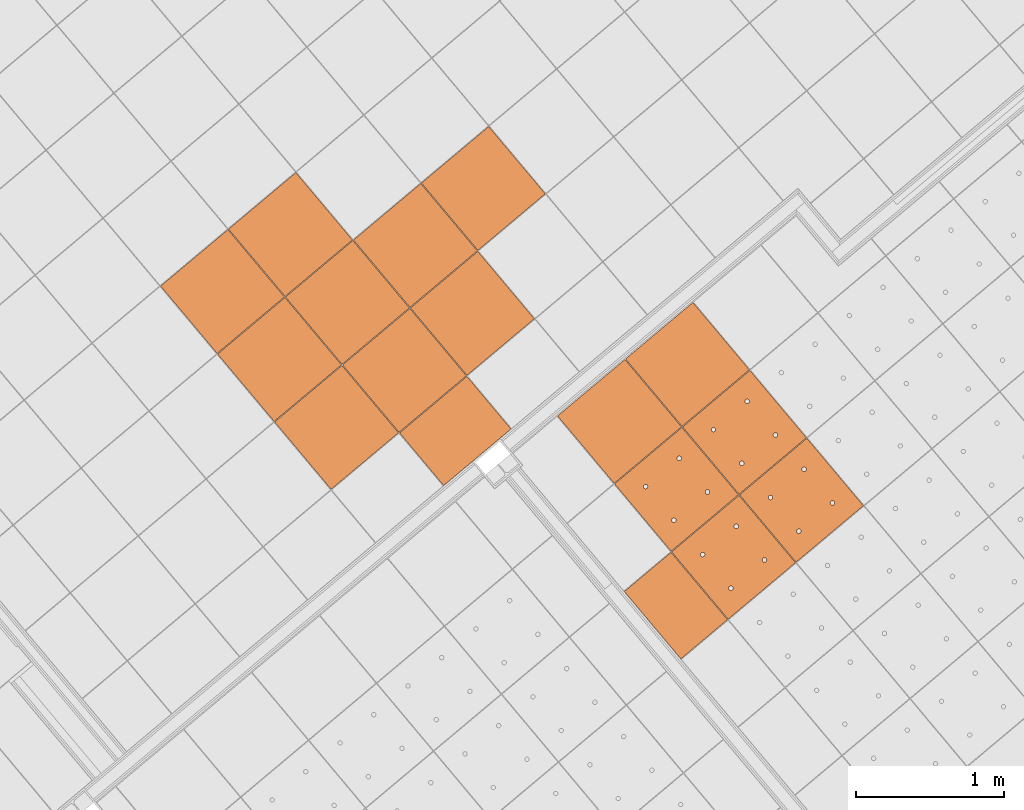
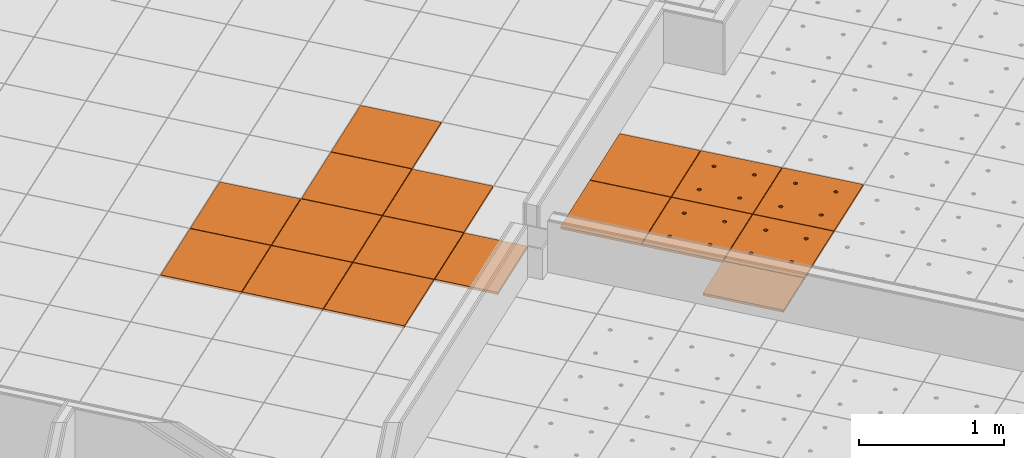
# One storey, part 148 of 338: 17 proxies, 2 elements without a shape of their own.
"""IFC2X3 building model written with IfcOpenShell, lengths in millimetres."""

from ifc_helpers import new_model, entity, si_unit, converted_unit, derived_unit, money_unit, direction, frame, origin_with_axes, place, context, subcontext, project, spatial, faceted_brep, source, transform, mapped, material, type_object, type_shapes, element, aggregate, save


model = new_model("IFC2X3")

# Units and contexts
model_context = context("Model", 3, precision=0.01, world=origin_with_axes(), true_north=direction((0.0, 1.0)))
plan_context = context("Plan", 3, precision=0.01, world=origin_with_axes(), true_north=direction((0.0, 1.0)))
body_context = subcontext(model_context, "Body", "Model", "MODEL_VIEW")
ifc_project = project(units=[si_unit("LENGTHUNIT", "METRE", prefix="MILLI"), si_unit("AREAUNIT", "SQUARE_METRE"), si_unit("VOLUMEUNIT", "CUBIC_METRE"), converted_unit("PLANEANGLEUNIT", "DEGREE", entity("IfcPlaneAngleMeasure", 0.0174532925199), si_unit("PLANEANGLEUNIT", "RADIAN"), dimensions=[0, 0, 0, 0, 0, 0, 0]), money_unit("EUR"), converted_unit("TIMEUNIT", "Year", entity("IfcTimeMeasure", 31556926.0), si_unit("TIMEUNIT", "SECOND"), dimensions=[0, 0, 1, 0, 0, 0, 0]), si_unit("MASSUNIT", "GRAM", prefix="KILO"), si_unit("THERMODYNAMICTEMPERATUREUNIT", "DEGREE_CELSIUS"), si_unit("LUMINOUSINTENSITYUNIT", "LUMEN"), si_unit("ENERGYUNIT", "JOULE", prefix="MEGA"), derived_unit("THERMALCONDUCTANCEUNIT", [(si_unit("POWERUNIT", "WATT"), 1), (si_unit("LENGTHUNIT", "METRE"), -1), (si_unit("THERMODYNAMICTEMPERATUREUNIT", "KELVIN"), -1)]), derived_unit("SPECIFICHEATCAPACITYUNIT", [(si_unit("ENERGYUNIT", "JOULE"), 1), (si_unit("MASSUNIT", "GRAM", prefix="KILO"), -1), (si_unit("THERMODYNAMICTEMPERATUREUNIT", "KELVIN"), -1)]), derived_unit("MASSDENSITYUNIT", [(si_unit("MASSUNIT", "GRAM", prefix="KILO"), 1), (si_unit("VOLUMEUNIT", "CUBIC_METRE"), -1)])], contexts=[model_context, plan_context])

# Site, building, storey
site_placement = place(None, origin_with_axes())
site = spatial("IfcSite", under=ifc_project, at=site_placement, Name="Fortuinstraat Woensdrecht", CompositionType="ELEMENT")
building_placement = place(site_placement, origin_with_axes())
building = spatial("IfcBuilding", under=site, at=building_placement, Name="IKC Fortuna", CompositionType="ELEMENT")
storey_placement = place(building_placement, origin_with_axes())
storey = spatial("IfcBuildingStorey", under=building, at=storey_placement, Name="00 begane grond", CompositionType="ELEMENT", Elevation=0.0)

# Covering, proxies
covering_type = type_object("IfcCoveringType", Name="Curtain Wall Type", PredefinedType="CEILING")
covering_1_placement = place(storey_placement, frame((17937.1227498, -4186.27868692, 4660.0), z_axis=(0.0, 0.0, 1.0), x_axis=(1.0, 0.0, 0.0)))
covering_1 = element("IfcCovering", 1, at=covering_1_placement, inside=storey, type_object=covering_type, Name="45_Plafondafwerking_P02", PredefinedType="CEILING")
ifc_material = material(Name="Gipsplaat")
building_element_proxy_type_1 = type_object("IfcBuildingElementProxyType", Name="Distinct Panel 600 x 600 x 20", PredefinedType="NOTDEFINED")
shared_shape_1 = source(origin_with_axes(), body_context, "Body", "Brep", [
    faceted_brep([(2.49999999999, 2.5, -10.0), (597.5, 2.49999999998, -10.0), (597.5, 2.49999999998, 10.0), (2.49999999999, 2.5, 10.0), (2.50000000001, 597.5, -10.0), (597.5, 597.5, -10.0), (597.5, 597.5, 10.0), (2.50000000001, 597.5, 10.0)], [[[0, 1, 2, 3]], [[0, 4, 5, 1]], [[1, 5, 6, 2]], [[3, 2, 6, 7]], [[4, 0, 3, 7]], [[5, 4, 7, 6]]]),
])
type_shapes(building_element_proxy_type_1, [shared_shape_1])
proxy_1_placement = place(covering_1_placement, frame((-3898.65373026, -1887.80590207, 1.98951966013e-10), z_axis=(0.0, 0.0, 1.0), x_axis=(1.0, 0.0, 0.0)))
proxy_1 = element("IfcBuildingElementProxy", 2, at=proxy_1_placement, type_object=building_element_proxy_type_1, material=ifc_material, Name="__Panel-D", context=body_context, shape_type="MappedRepresentation", body=[
    mapped(shared_shape_1, transform((36.9769427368, 422.649625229, 0.0), x_axis=(-0.766044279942, -0.642787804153, 0.0), y_axis=(0.642787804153, -0.766044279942, 0.0), z_axis=(0.0, 0.0, 1.0))),
])
proxy_2_placement = place(covering_1_placement, frame((-4284.32641275, -1428.17933411, 1.98951966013e-10), z_axis=(0.0, 0.0, 1.0), x_axis=(1.0, 0.0, 0.0)))
proxy_2 = element("IfcBuildingElementProxy", 3, at=proxy_2_placement, type_object=building_element_proxy_type_1, material=ifc_material, Name="__Panel-D", context=body_context, shape_type="MappedRepresentation", body=[
    mapped(shared_shape_1, transform((36.9769427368, 422.649625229, 0.0), x_axis=(-0.766044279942, -0.642787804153, 0.0), y_axis=(0.642787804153, -0.766044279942, 0.0), z_axis=(0.0, 0.0, 1.0))),
])
proxy_3_placement = place(covering_1_placement, frame((-4669.99909524, -968.552766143, 1.98951966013e-10), z_axis=(0.0, 0.0, 1.0), x_axis=(1.0, 0.0, 0.0)))
proxy_3 = element("IfcBuildingElementProxy", 4, at=proxy_3_placement, type_object=building_element_proxy_type_1, material=ifc_material, Name="__Panel-D", context=body_context, shape_type="MappedRepresentation", body=[
    mapped(shared_shape_1, transform((36.9769427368, 422.649625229, 0.0), x_axis=(-0.766044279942, -0.642787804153, 0.0), y_axis=(0.642787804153, -0.766044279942, 0.0), z_axis=(0.0, 0.0, 1.0))),
])
proxy_4_placement = place(covering_1_placement, frame((-2905.44670885, -271.161286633, 1.39444011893e-10), z_axis=(0.0, 0.0, 1.0), x_axis=(1.0, 0.0, 0.0)))
proxy_4 = element("IfcBuildingElementProxy", 5, at=proxy_4_placement, type_object=building_element_proxy_type_1, material=ifc_material, Name="__Panel-D", context=body_context, shape_type="MappedRepresentation", body=[
    mapped(shared_shape_1, transform((36.9769427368, 422.649625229, 0.0), x_axis=(-0.766044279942, -0.642787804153, 0.0), y_axis=(0.642787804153, -0.766044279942, 0.0), z_axis=(0.0, 0.0, 1.0))),
])
proxy_5_placement = place(covering_1_placement, frame((-3365.07327682, -656.833969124, 1.58983937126e-10), z_axis=(0.0, 0.0, 1.0), x_axis=(1.0, 0.0, 0.0)))
proxy_5 = element("IfcBuildingElementProxy", 6, at=proxy_5_placement, type_object=building_element_proxy_type_1, material=ifc_material, Name="__Panel-D", context=body_context, shape_type="MappedRepresentation", body=[
    mapped(shared_shape_1, transform((36.9769427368, 422.649625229, 0.0), x_axis=(-0.766044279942, -0.642787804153, 0.0), y_axis=(0.642787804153, -0.766044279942, 0.0), z_axis=(0.0, 0.0, 1.0))),
])
proxy_6_placement = place(covering_1_placement, frame((-2979.40059433, -1116.46053709, 1.58983937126e-10), z_axis=(0.0, 0.0, 1.0), x_axis=(1.0, 0.0, 0.0)))
proxy_6 = element("IfcBuildingElementProxy", 7, at=proxy_6_placement, type_object=building_element_proxy_type_1, material=ifc_material, Name="__Panel-D", context=body_context, shape_type="MappedRepresentation", body=[
    mapped(shared_shape_1, transform((36.9769427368, 422.649625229, 0.0), x_axis=(-0.766044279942, -0.642787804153, 0.0), y_axis=(0.642787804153, -0.766044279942, 0.0), z_axis=(0.0, 0.0, 1.0))),
])
proxy_7_placement = place(covering_1_placement, frame((-4210.37252728, -582.880083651, 1.79412040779e-10), z_axis=(0.0, 0.0, 1.0), x_axis=(1.0, 0.0, 0.0)))
proxy_7 = element("IfcBuildingElementProxy", 8, at=proxy_7_placement, type_object=building_element_proxy_type_1, material=ifc_material, Name="__Panel-D", context=body_context, shape_type="MappedRepresentation", body=[
    mapped(shared_shape_1, transform((36.9769427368, 422.649625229, 0.0), x_axis=(-0.766044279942, -0.642787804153, 0.0), y_axis=(0.642787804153, -0.766044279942, 0.0), z_axis=(0.0, 0.0, 1.0))),
])
proxy_8_placement = place(covering_1_placement, frame((-3824.69984478, -1042.50665162, 1.79412040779e-10), z_axis=(0.0, 0.0, 1.0), x_axis=(1.0, 0.0, 0.0)))
proxy_8 = element("IfcBuildingElementProxy", 9, at=proxy_8_placement, type_object=building_element_proxy_type_1, material=ifc_material, Name="__Panel-D", context=body_context, shape_type="MappedRepresentation", body=[
    mapped(shared_shape_1, transform((36.9769427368, 422.649625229, 0.0), x_axis=(-0.766044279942, -0.642787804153, 0.0), y_axis=(0.642787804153, -0.766044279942, 0.0), z_axis=(0.0, 0.0, 1.0))),
])
proxy_9_placement = place(covering_1_placement, frame((-3439.02716229, -1502.13321958, 1.79412040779e-10), z_axis=(0.0, 0.0, 1.0), x_axis=(1.0, 0.0, 0.0)))
proxy_9 = element("IfcBuildingElementProxy", 10, at=proxy_9_placement, type_object=building_element_proxy_type_1, material=ifc_material, Name="__Panel-D", context=body_context, shape_type="MappedRepresentation", body=[
    mapped(shared_shape_1, transform((36.9769427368, 422.649625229, 0.0), x_axis=(-0.766044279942, -0.642787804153, 0.0), y_axis=(0.642787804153, -0.766044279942, 0.0), z_axis=(0.0, 0.0, 1.0))),
])
building_element_proxy_type_2 = type_object("IfcBuildingElementProxyType", Name="Distinct Panel 600 x 470 x 20", PredefinedType="NOTDEFINED")
shared_shape_2 = source(origin_with_axes(), body_context, "Body", "Brep", [
    faceted_brep([(2.49999368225, 2.50000660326, -10.0), (597.499997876, 2.49999535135, -10.0), (597.499997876, 2.49999535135, 10.0), (2.49999368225, 2.50000660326, 10.0), (2.49999873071, 467.226768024, -10.0), (597.500011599, 467.226749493, -10.0), (597.500011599, 467.226749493, 10.0), (2.49999873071, 467.226768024, 10.0)], [[[0, 1, 2, 3]], [[0, 4, 5, 1]], [[1, 5, 6, 2]], [[3, 2, 6, 7]], [[4, 0, 3, 7]], [[5, 4, 7, 6]]]),
])
type_shapes(building_element_proxy_type_2, [shared_shape_2])
proxy_10_placement = place(covering_1_placement, frame((-3095.22350556, -1911.8622514, 1.79412040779e-10), z_axis=(0.0, 0.0, 1.0), x_axis=(1.0, 0.0, 0.0)))
proxy_10 = element("IfcBuildingElementProxy", 11, at=proxy_10_placement, type_object=building_element_proxy_type_2, material=ifc_material, Name="__Panel-D", context=body_context, shape_type="MappedRepresentation", body=[
    mapped(shared_shape_2, transform((78.8459684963, 372.752089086, 0.0), x_axis=(-0.766044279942, -0.642787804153, 0.0), y_axis=(0.642787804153, -0.766044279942, 0.0), z_axis=(0.0, 0.0, 1.0))),
])
aggregate(covering_1, [proxy_1, proxy_2, proxy_3, proxy_4, proxy_5, proxy_6, proxy_7, proxy_8, proxy_9, proxy_10])

covering_2_placement = place(storey_placement, frame((19785.7448517, -11392.5753808, 4660.0), z_axis=(0.0, 0.0, 1.0), x_axis=(1.0, 0.0, 0.0)))
covering_2 = element("IfcCovering", 12, at=covering_2_placement, inside=storey, type_object=covering_type, Name="45_Plafondafwerking_P01", PredefinedType="CEILING")
building_element_proxy_type_3 = type_object("IfcBuildingElementProxyType", Name="Main Panel 600 x 600 x 20", PredefinedType="NOTDEFINED")
shared_shape_3 = source(origin_with_axes(), body_context, "Body", "Brep", [
    faceted_brep([(2.49999999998, 2.49999999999, -10.0), (300.0, 2.49999999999, -10.0), (300.0, 2.49999999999, 10.0), (2.49999999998, 2.49999999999, 10.0), (2.49999999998, 300.0, -10.0), (2.49999999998, 597.5, -10.0), (300.0, 597.5, -10.0), (597.5, 597.5, -10.0), (597.5, 300.0, -10.0), (597.5, 2.49999999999, -10.0), (166.25, 450.06232995, -10.0), (165.79423259, 452.64711538, -10.0), (164.896546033, 455.11348892, -10.0), (163.58421608, 457.38651108, -10.0), (161.897117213, 459.39711721, -10.0), (159.886511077, 461.08421608, -10.0), (157.613488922, 462.39654603, -10.0), (155.147115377, 463.29423259, -10.0), (152.562329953, 463.75, -10.0), (149.937670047, 463.75, -10.0), (147.352884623, 463.29423259, -10.0), (144.886511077, 462.39654603, -10.0), (142.613488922, 461.08421608, -10.0), (140.602882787, 459.39711721, -10.0), (138.91578392, 457.38651108, -10.0), (137.603453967, 455.11348892, -10.0), (136.705767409, 452.64711538, -10.0), (136.25, 450.06232995, -10.0), (136.25, 448.75, -10.0), (136.25, 447.43767005, -10.0), (136.705767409, 444.85288462, -10.0), (137.603453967, 442.38651108, -10.0), (138.91578392, 440.11348892, -10.0), (140.602882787, 438.10288279, -10.0), (142.613488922, 436.41578392, -10.0), (144.886511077, 435.10345397, -10.0), (147.352884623, 434.20576741, -10.0), (149.937670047, 433.75, -10.0), (152.562329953, 433.75, -10.0), (155.147115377, 434.20576741, -10.0), (157.613488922, 435.10345397, -10.0), (159.886511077, 436.41578392, -10.0), (161.897117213, 438.10288279, -10.0), (163.58421608, 440.11348892, -10.0), (164.896546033, 442.38651108, -10.0), (165.79423259, 444.85288462, -10.0), (166.25, 447.43767005, -10.0), (463.75, 450.06232995, -10.0), (463.29423259, 452.64711538, -10.0), (462.396546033, 455.11348892, -10.0), (461.08421608, 457.38651108, -10.0), (459.397117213, 459.39711721, -10.0), (457.386511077, 461.08421608, -10.0), (455.113488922, 462.39654603, -10.0), (452.647115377, 463.29423259, -10.0), (450.062329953, 463.75, -10.0), (447.437670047, 463.75, -10.0), (444.852884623, 463.29423259, -10.0), (442.386511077, 462.39654603, -10.0), (440.113488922, 461.08421608, -10.0), (438.102882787, 459.39711721, -10.0), (436.41578392, 457.38651108, -10.0), (435.103453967, 455.11348892, -10.0), (434.205767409, 452.64711538, -10.0), (433.75, 450.06232995, -10.0), (433.75, 448.75, -10.0), (433.75, 447.43767005, -10.0), (434.205767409, 444.85288462, -10.0), (435.103453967, 442.38651108, -10.0), (436.41578392, 440.11348892, -10.0), (438.102882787, 438.10288279, -10.0), (440.113488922, 436.41578392, -10.0), (442.386511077, 435.10345397, -10.0), (444.852884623, 434.20576741, -10.0), (447.437670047, 433.75, -10.0), (450.062329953, 433.75, -10.0), (452.647115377, 434.20576741, -10.0), (455.113488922, 435.10345397, -10.0), (457.386511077, 436.41578392, -10.0), (459.397117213, 438.10288279, -10.0), (461.08421608, 440.11348892, -10.0), (462.396546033, 442.38651108, -10.0), (463.29423259, 444.85288462, -10.0), (463.75, 447.43767005, -10.0), (463.75, 152.56232995, -10.0), (463.29423259, 155.14711538, -10.0), (462.396546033, 157.61348892, -10.0), (461.08421608, 159.88651108, -10.0), (459.397117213, 161.89711721, -10.0), (457.386511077, 163.58421608, -10.0), (455.113488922, 164.89654603, -10.0), (452.647115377, 165.79423259, -10.0), (450.062329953, 166.25, -10.0), (447.437670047, 166.25, -10.0), (444.852884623, 165.79423259, -10.0), (442.386511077, 164.89654603, -10.0), (440.113488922, 163.58421608, -10.0), (438.102882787, 161.89711721, -10.0), (436.41578392, 159.88651108, -10.0), (435.103453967, 157.61348892, -10.0), (434.205767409, 155.14711538, -10.0), (433.75, 152.56232995, -10.0), (433.75, 151.25, -10.0), (433.75, 149.93767005, -10.0), (434.205767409, 147.35288462, -10.0), (435.103453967, 144.88651108, -10.0), (436.41578392, 142.61348892, -10.0), (438.102882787, 140.60288279, -10.0), (440.113488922, 138.91578392, -10.0), (442.386511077, 137.60345397, -10.0), (444.852884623, 136.70576741, -10.0), (447.437670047, 136.25, -10.0), (450.062329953, 136.25, -10.0), (452.647115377, 136.70576741, -10.0), (455.113488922, 137.60345397, -10.0), (457.386511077, 138.91578392, -10.0), (459.397117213, 140.60288279, -10.0), (461.08421608, 142.61348892, -10.0), (462.396546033, 144.88651108, -10.0), (463.29423259, 147.35288462, -10.0), (463.75, 149.93767005, -10.0), (166.25, 152.56232995, -10.0), (165.79423259, 155.14711538, -10.0), (164.896546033, 157.61348892, -10.0), (163.58421608, 159.88651108, -10.0), (161.897117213, 161.89711721, -10.0), (159.886511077, 163.58421608, -10.0), (157.613488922, 164.89654603, -10.0), (155.147115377, 165.79423259, -10.0), (152.562329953, 166.25, -10.0), (149.937670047, 166.25, -10.0), (147.352884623, 165.79423259, -10.0), (144.886511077, 164.89654603, -10.0), (142.613488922, 163.58421608, -10.0), (140.602882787, 161.89711721, -10.0), (138.91578392, 159.88651108, -10.0), (137.603453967, 157.61348892, -10.0), (136.705767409, 155.14711538, -10.0), (136.25, 152.56232995, -10.0), (136.25, 151.25, -10.0), (136.25, 149.93767005, -10.0), (136.705767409, 147.35288462, -10.0), (137.603453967, 144.88651108, -10.0), (138.91578392, 142.61348892, -10.0), (140.602882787, 140.60288279, -10.0), (142.613488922, 138.91578392, -10.0), (144.886511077, 137.60345397, -10.0), (147.352884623, 136.70576741, -10.0), (149.937670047, 136.25, -10.0), (152.562329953, 136.25, -10.0), (155.147115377, 136.70576741, -10.0), (157.613488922, 137.60345397, -10.0), (159.886511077, 138.91578392, -10.0), (161.897117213, 140.60288279, -10.0), (163.58421608, 142.61348892, -10.0), (164.896546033, 144.88651108, -10.0), (165.79423259, 147.35288462, -10.0), (166.25, 149.93767005, -10.0), (597.5, 2.49999999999, 10.0), (597.5, 300.0, 10.0), (597.5, 597.5, 10.0), (300.0, 597.5, 10.0), (2.49999999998, 597.5, 10.0), (2.49999999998, 300.0, 10.0), (166.25, 450.06232995, 10.0), (166.25, 447.43767005, 10.0), (165.79423259, 444.85288462, 10.0), (164.896546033, 442.38651108, 10.0), (163.58421608, 440.11348892, 10.0), (161.897117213, 438.10288279, 10.0), (159.886511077, 436.41578392, 10.0), (157.613488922, 435.10345397, 10.0), (155.147115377, 434.20576741, 10.0), (152.562329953, 433.75, 10.0), (149.937670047, 433.75, 10.0), (147.352884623, 434.20576741, 10.0), (144.886511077, 435.10345397, 10.0), (142.613488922, 436.41578392, 10.0), (140.602882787, 438.10288279, 10.0), (138.91578392, 440.11348892, 10.0), (137.603453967, 442.38651108, 10.0), (136.705767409, 444.85288462, 10.0), (136.25, 447.43767005, 10.0), (136.25, 448.75, 10.0), (136.25, 450.06232995, 10.0), (136.705767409, 452.64711538, 10.0), (137.603453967, 455.11348892, 10.0), (138.91578392, 457.38651108, 10.0), (140.602882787, 459.39711721, 10.0), (142.613488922, 461.08421608, 10.0), (144.886511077, 462.39654603, 10.0), (147.352884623, 463.29423259, 10.0), (149.937670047, 463.75, 10.0), (152.562329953, 463.75, 10.0), (155.147115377, 463.29423259, 10.0), (157.613488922, 462.39654603, 10.0), (159.886511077, 461.08421608, 10.0), (161.897117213, 459.39711721, 10.0), (163.58421608, 457.38651108, 10.0), (164.896546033, 455.11348892, 10.0), (165.79423259, 452.64711538, 10.0), (463.75, 450.06232995, 10.0), (463.75, 447.43767005, 10.0), (463.29423259, 444.85288462, 10.0), (462.396546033, 442.38651108, 10.0), (461.08421608, 440.11348892, 10.0), (459.397117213, 438.10288279, 10.0), (457.386511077, 436.41578392, 10.0), (455.113488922, 435.10345397, 10.0), (452.647115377, 434.20576741, 10.0), (450.062329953, 433.75, 10.0), (447.437670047, 433.75, 10.0), (444.852884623, 434.20576741, 10.0), (442.386511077, 435.10345397, 10.0), (440.113488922, 436.41578392, 10.0), (438.102882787, 438.10288279, 10.0), (436.41578392, 440.11348892, 10.0), (435.103453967, 442.38651108, 10.0), (434.205767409, 444.85288462, 10.0), (433.75, 447.43767005, 10.0), (433.75, 448.75, 10.0), (433.75, 450.06232995, 10.0), (434.205767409, 452.64711538, 10.0), (435.103453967, 455.11348892, 10.0), (436.41578392, 457.38651108, 10.0), (438.102882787, 459.39711721, 10.0), (440.113488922, 461.08421608, 10.0), (442.386511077, 462.39654603, 10.0), (444.852884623, 463.29423259, 10.0), (447.437670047, 463.75, 10.0), (450.062329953, 463.75, 10.0), (452.647115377, 463.29423259, 10.0), (455.113488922, 462.39654603, 10.0), (457.386511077, 461.08421608, 10.0), (459.397117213, 459.39711721, 10.0), (461.08421608, 457.38651108, 10.0), (462.396546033, 455.11348892, 10.0), (463.29423259, 452.64711538, 10.0), (463.75, 152.56232995, 10.0), (463.75, 149.93767005, 10.0), (463.29423259, 147.35288462, 10.0), (462.396546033, 144.88651108, 10.0), (461.08421608, 142.61348892, 10.0), (459.397117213, 140.60288279, 10.0), (457.386511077, 138.91578392, 10.0), (455.113488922, 137.60345397, 10.0), (452.647115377, 136.70576741, 10.0), (450.062329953, 136.25, 10.0), (447.437670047, 136.25, 10.0), (444.852884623, 136.70576741, 10.0), (442.386511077, 137.60345397, 10.0), (440.113488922, 138.91578392, 10.0), (438.102882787, 140.60288279, 10.0), (436.41578392, 142.61348892, 10.0), (435.103453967, 144.88651108, 10.0), (434.205767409, 147.35288462, 10.0), (433.75, 149.93767005, 10.0), (433.75, 151.25, 10.0), (433.75, 152.56232995, 10.0), (434.205767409, 155.14711538, 10.0), (435.103453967, 157.61348892, 10.0), (436.41578392, 159.88651108, 10.0), (438.102882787, 161.89711721, 10.0), (440.113488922, 163.58421608, 10.0), (442.386511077, 164.89654603, 10.0), (444.852884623, 165.79423259, 10.0), (447.437670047, 166.25, 10.0), (450.062329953, 166.25, 10.0), (452.647115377, 165.79423259, 10.0), (455.113488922, 164.89654603, 10.0), (457.386511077, 163.58421608, 10.0), (459.397117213, 161.89711721, 10.0), (461.08421608, 159.88651108, 10.0), (462.396546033, 157.61348892, 10.0), (463.29423259, 155.14711538, 10.0), (166.25, 152.56232995, 10.0), (166.25, 149.93767005, 10.0), (165.79423259, 147.35288462, 10.0), (164.896546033, 144.88651108, 10.0), (163.58421608, 142.61348892, 10.0), (161.897117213, 140.60288279, 10.0), (159.886511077, 138.91578392, 10.0), (157.613488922, 137.60345397, 10.0), (155.147115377, 136.70576741, 10.0), (152.562329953, 136.25, 10.0), (149.937670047, 136.25, 10.0), (147.352884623, 136.70576741, 10.0), (144.886511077, 137.60345397, 10.0), (142.613488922, 138.91578392, 10.0), (140.602882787, 140.60288279, 10.0), (138.91578392, 142.61348892, 10.0), (137.603453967, 144.88651108, 10.0), (136.705767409, 147.35288462, 10.0), (136.25, 149.93767005, 10.0), (136.25, 151.25, 10.0), (136.25, 152.56232995, 10.0), (136.705767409, 155.14711538, 10.0), (137.603453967, 157.61348892, 10.0), (138.91578392, 159.88651108, 10.0), (140.602882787, 161.89711721, 10.0), (142.613488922, 163.58421608, 10.0), (144.886511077, 164.89654603, 10.0), (147.352884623, 165.79423259, 10.0), (149.937670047, 166.25, 10.0), (152.562329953, 166.25, 10.0), (155.147115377, 165.79423259, 10.0), (157.613488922, 164.89654603, 10.0), (159.886511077, 163.58421608, 10.0), (161.897117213, 161.89711721, 10.0), (163.58421608, 159.88651108, 10.0), (164.896546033, 157.61348892, 10.0), (165.79423259, 155.14711538, 10.0)], [[[0, 1, 2, 3]], [[0, 4, 5, 6, 7, 8, 9, 1], [10, 11, 12, 13, 14, 15, 16, 17, 18, 19, 20, 21, 22, 23, 24, 25, 26, 27, 28, 29, 30, 31, 32, 33, 34, 35, 36, 37, 38, 39, 40, 41, 42, 43, 44, 45, 46], [47, 48, 49, 50, 51, 52, 53, 54, 55, 56, 57, 58, 59, 60, 61, 62, 63, 64, 65, 66, 67, 68, 69, 70, 71, 72, 73, 74, 75, 76, 77, 78, 79, 80, 81, 82, 83], [84, 85, 86, 87, 88, 89, 90, 91, 92, 93, 94, 95, 96, 97, 98, 99, 100, 101, 102, 103, 104, 105, 106, 107, 108, 109, 110, 111, 112, 113, 114, 115, 116, 117, 118, 119, 120], [121, 122, 123, 124, 125, 126, 127, 128, 129, 130, 131, 132, 133, 134, 135, 136, 137, 138, 139, 140, 141, 142, 143, 144, 145, 146, 147, 148, 149, 150, 151, 152, 153, 154, 155, 156, 157]], [[1, 9, 158, 2]], [[3, 2, 158, 159, 160, 161, 162, 163], [164, 165, 166, 167, 168, 169, 170, 171, 172, 173, 174, 175, 176, 177, 178, 179, 180, 181, 182, 183, 184, 185, 186, 187, 188, 189, 190, 191, 192, 193, 194, 195, 196, 197, 198, 199, 200], [201, 202, 203, 204, 205, 206, 207, 208, 209, 210, 211, 212, 213, 214, 215, 216, 217, 218, 219, 220, 221, 222, 223, 224, 225, 226, 227, 228, 229, 230, 231, 232, 233, 234, 235, 236, 237], [238, 239, 240, 241, 242, 243, 244, 245, 246, 247, 248, 249, 250, 251, 252, 253, 254, 255, 256, 257, 258, 259, 260, 261, 262, 263, 264, 265, 266, 267, 268, 269, 270, 271, 272, 273, 274], [275, 276, 277, 278, 279, 280, 281, 282, 283, 284, 285, 286, 287, 288, 289, 290, 291, 292, 293, 294, 295, 296, 297, 298, 299, 300, 301, 302, 303, 304, 305, 306, 307, 308, 309, 310, 311]], [[4, 0, 3, 163]], [[5, 4, 163, 162]], [[6, 5, 162, 161]], [[7, 6, 161, 160]], [[8, 7, 160, 159]], [[9, 8, 159, 158]], [[11, 10, 164, 200]], [[12, 11, 200, 199]], [[13, 12, 199, 198]], [[14, 13, 198, 197]], [[15, 14, 197, 196]], [[16, 15, 196, 195]], [[17, 16, 195, 194]], [[18, 17, 194, 193]], [[19, 18, 193, 192]], [[20, 19, 192, 191]], [[21, 20, 191, 190]], [[22, 21, 190, 189]], [[23, 22, 189, 188]], [[24, 23, 188, 187]], [[25, 24, 187, 186]], [[26, 25, 186, 185]], [[27, 26, 185, 184]], [[28, 27, 184, 183]], [[29, 28, 183, 182]], [[30, 29, 182, 181]], [[31, 30, 181, 180]], [[32, 31, 180, 179]], [[33, 32, 179, 178]], [[34, 33, 178, 177]], [[35, 34, 177, 176]], [[36, 35, 176, 175]], [[37, 36, 175, 174]], [[38, 37, 174, 173]], [[39, 38, 173, 172]], [[40, 39, 172, 171]], [[41, 40, 171, 170]], [[42, 41, 170, 169]], [[43, 42, 169, 168]], [[44, 43, 168, 167]], [[45, 44, 167, 166]], [[46, 45, 166, 165]], [[10, 46, 165, 164]], [[48, 47, 201, 237]], [[49, 48, 237, 236]], [[50, 49, 236, 235]], [[51, 50, 235, 234]], [[52, 51, 234, 233]], [[53, 52, 233, 232]], [[54, 53, 232, 231]], [[55, 54, 231, 230]], [[56, 55, 230, 229]], [[57, 56, 229, 228]], [[58, 57, 228, 227]], [[59, 58, 227, 226]], [[60, 59, 226, 225]], [[61, 60, 225, 224]], [[62, 61, 224, 223]], [[63, 62, 223, 222]], [[64, 63, 222, 221]], [[65, 64, 221, 220]], [[66, 65, 220, 219]], [[67, 66, 219, 218]], [[68, 67, 218, 217]], [[69, 68, 217, 216]], [[70, 69, 216, 215]], [[71, 70, 215, 214]], [[72, 71, 214, 213]], [[73, 72, 213, 212]], [[74, 73, 212, 211]], [[75, 74, 211, 210]], [[76, 75, 210, 209]], [[77, 76, 209, 208]], [[78, 77, 208, 207]], [[79, 78, 207, 206]], [[80, 79, 206, 205]], [[81, 80, 205, 204]], [[82, 81, 204, 203]], [[83, 82, 203, 202]], [[47, 83, 202, 201]], [[85, 84, 238, 274]], [[86, 85, 274, 273]], [[87, 86, 273, 272]], [[88, 87, 272, 271]], [[89, 88, 271, 270]], [[90, 89, 270, 269]], [[91, 90, 269, 268]], [[92, 91, 268, 267]], [[93, 92, 267, 266]], [[94, 93, 266, 265]], [[95, 94, 265, 264]], [[96, 95, 264, 263]], [[97, 96, 263, 262]], [[98, 97, 262, 261]], [[99, 98, 261, 260]], [[100, 99, 260, 259]], [[101, 100, 259, 258]], [[102, 101, 258, 257]], [[103, 102, 257, 256]], [[104, 103, 256, 255]], [[105, 104, 255, 254]], [[106, 105, 254, 253]], [[107, 106, 253, 252]], [[108, 107, 252, 251]], [[109, 108, 251, 250]], [[110, 109, 250, 249]], [[111, 110, 249, 248]], [[112, 111, 248, 247]], [[113, 112, 247, 246]], [[114, 113, 246, 245]], [[115, 114, 245, 244]], [[116, 115, 244, 243]], [[117, 116, 243, 242]], [[118, 117, 242, 241]], [[119, 118, 241, 240]], [[120, 119, 240, 239]], [[84, 120, 239, 238]], [[122, 121, 275, 311]], [[123, 122, 311, 310]], [[124, 123, 310, 309]], [[125, 124, 309, 308]], [[126, 125, 308, 307]], [[127, 126, 307, 306]], [[128, 127, 306, 305]], [[129, 128, 305, 304]], [[130, 129, 304, 303]], [[131, 130, 303, 302]], [[132, 131, 302, 301]], [[133, 132, 301, 300]], [[134, 133, 300, 299]], [[135, 134, 299, 298]], [[136, 135, 298, 297]], [[137, 136, 297, 296]], [[138, 137, 296, 295]], [[139, 138, 295, 294]], [[140, 139, 294, 293]], [[141, 140, 293, 292]], [[142, 141, 292, 291]], [[143, 142, 291, 290]], [[144, 143, 290, 289]], [[145, 144, 289, 288]], [[146, 145, 288, 287]], [[147, 146, 287, 286]], [[148, 147, 286, 285]], [[149, 148, 285, 284]], [[150, 149, 284, 283]], [[151, 150, 283, 282]], [[152, 151, 282, 281]], [[153, 152, 281, 280]], [[154, 153, 280, 279]], [[155, 154, 279, 278]], [[156, 155, 278, 277]], [[157, 156, 277, 276]], [[121, 157, 276, 275]]]),
])
type_shapes(building_element_proxy_type_3, [shared_shape_3])
proxy_11_placement = place(covering_2_placement, frame((-3446.91605906, 4899.34588103, 2.20268248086e-10), z_axis=(0.0, 0.0, 1.0), x_axis=(1.0, 0.0, 0.0)))
proxy_11 = element("IfcBuildingElementProxy", 13, at=proxy_11_placement, type_object=building_element_proxy_type_3, material=ifc_material, Name="__600x604 Rockfon Krios", context=body_context, shape_type="MappedRepresentation", body=[
    mapped(shared_shape_3, transform((36.9769427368, 422.649625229, 0.0), x_axis=(-0.766044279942, -0.642787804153, 0.0), y_axis=(0.642787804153, -0.766044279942, 0.0), z_axis=(0.0, 0.0, 1.0))),
])
proxy_12_placement = place(covering_2_placement, frame((-2601.6168086, 4825.39199555, 1.99840144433e-10), z_axis=(0.0, 0.0, 1.0), x_axis=(1.0, 0.0, 0.0)))
proxy_12 = element("IfcBuildingElementProxy", 14, at=proxy_12_placement, type_object=building_element_proxy_type_3, material=ifc_material, Name="__600x605 Rockfon Krios", context=body_context, shape_type="MappedRepresentation", body=[
    mapped(shared_shape_3, transform((36.9769427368, 422.649625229, 0.0), x_axis=(-0.766044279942, -0.642787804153, 0.0), y_axis=(0.642787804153, -0.766044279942, 0.0), z_axis=(0.0, 0.0, 1.0))),
])
proxy_13_placement = place(covering_2_placement, frame((-3061.24337657, 4439.71931306, 2.20268248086e-10), z_axis=(0.0, 0.0, 1.0), x_axis=(1.0, 0.0, 0.0)))
proxy_13 = element("IfcBuildingElementProxy", 15, at=proxy_13_placement, type_object=building_element_proxy_type_3, material=ifc_material, Name="__600x607 Rockfon Krios", context=body_context, shape_type="MappedRepresentation", body=[
    mapped(shared_shape_3, transform((36.9769427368, 422.649625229, 0.0), x_axis=(-0.766044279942, -0.642787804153, 0.0), y_axis=(0.642787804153, -0.766044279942, 0.0), z_axis=(0.0, 0.0, 1.0))),
])
proxy_14_placement = place(covering_2_placement, frame((-2987.28949109, 5285.01856352, 1.99840144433e-10), z_axis=(0.0, 0.0, 1.0), x_axis=(1.0, 0.0, 0.0)))
proxy_14 = element("IfcBuildingElementProxy", 16, at=proxy_14_placement, type_object=building_element_proxy_type_3, material=ifc_material, Name="__600x615 Rockfon Krios", context=body_context, shape_type="MappedRepresentation", body=[
    mapped(shared_shape_3, transform((36.9769427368, 422.649625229, 0.0), x_axis=(-0.766044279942, -0.642787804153, 0.0), y_axis=(0.642787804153, -0.766044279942, 0.0), z_axis=(0.0, 0.0, 1.0))),
])
building_element_proxy_type_4 = type_object("IfcBuildingElementProxyType", Name="600 x 600 x 20", PredefinedType="NOTDEFINED")
shared_shape_4 = source(origin_with_axes(), body_context, "Body", "Brep", [
    faceted_brep([(2.49999732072, 2.50000913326, -10.0), (597.499988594, 2.49999469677, -10.0), (597.499988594, 2.49999469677, 10.0), (2.49999732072, 2.50000913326, 10.0), (2.49999902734, 597.500043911, -10.0), (597.499988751, 597.500047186, -10.0), (597.499988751, 597.500047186, 10.0), (2.49999902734, 597.500043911, 10.0)], [[[0, 1, 2, 3]], [[0, 4, 5, 1]], [[1, 5, 6, 2]], [[3, 2, 6, 7]], [[4, 0, 3, 7]], [[5, 4, 7, 6]]]),
])
proxy_15_placement = place(covering_2_placement, frame((-3372.96217358, 5744.64513148, 1.99840144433e-10), z_axis=(0.0, 0.0, 1.0), x_axis=(1.0, 0.0, 0.0)))
proxy_15 = element("IfcBuildingElementProxy", 17, at=proxy_15_placement, type_object=building_element_proxy_type_4, material=ifc_material, Name="__600x624 Rockfon Krios", context=body_context, shape_type="MappedRepresentation", body=[
    mapped(shared_shape_4, transform((36.9769427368, 422.649625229, 0.0), x_axis=(-0.766044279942, -0.642787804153, 0.0), y_axis=(0.642787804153, -0.766044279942, 0.0), z_axis=(0.0, 0.0, 1.0))),
])
building_element_proxy_type_5 = type_object("IfcBuildingElementProxyType", Name="417 x 600 x 20", PredefinedType="NOTDEFINED")
shared_shape_5 = source(origin_with_axes(), body_context, "Body", "Brep", [
    faceted_brep([(2.49999980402, 2.50000025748, -10.0), (414.998898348, 2.49998563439, -10.0), (414.998898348, 2.49998563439, 10.0), (2.49999980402, 2.50000025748, 10.0), (2.49999356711, 597.500003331, -10.0), (414.998907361, 597.499990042, -10.0), (414.998907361, 597.499990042, 10.0), (2.49999356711, 597.500003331, 10.0)], [[[0, 1, 2, 3]], [[0, 4, 5, 1]], [[1, 5, 6, 2]], [[3, 2, 6, 7]], [[4, 0, 3, 7]], [[5, 4, 7, 6]]]),
])
type_shapes(building_element_proxy_type_5, [shared_shape_5])
proxy_16_placement = place(covering_2_placement, frame((-3450.96798279, 4112.70137112, 2.3714363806e-10), z_axis=(0.0, 0.0, 1.0), x_axis=(1.0, 0.0, 0.0)))
proxy_16 = element("IfcBuildingElementProxy", 18, at=proxy_16_placement, type_object=building_element_proxy_type_5, material=ifc_material, Name="__600x631 Rockfon Krios", context=body_context, shape_type="MappedRepresentation", body=[
    mapped(shared_shape_5, transform((-32.9250190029, 363.994884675, 0.0), x_axis=(-0.766044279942, -0.642787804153, 0.0), y_axis=(0.642787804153, -0.766044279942, 0.0), z_axis=(0.0, 0.0, 1.0))),
])
shared_shape_6 = source(origin_with_axes(), body_context, "Body", "Brep", [
    faceted_brep([(2.50000188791, 2.50000518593, -10.0), (597.499994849, 2.50000192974, -10.0), (597.499994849, 2.50000192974, 10.0), (2.50000188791, 2.50000518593, 10.0), (2.50000514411, 597.499998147, -10.0), (597.499998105, 597.499994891, -10.0), (597.499998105, 597.499994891, 10.0), (2.50000514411, 597.499998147, 10.0)], [[[0, 1, 2, 3]], [[0, 4, 5, 1]], [[1, 5, 6, 2]], [[3, 2, 6, 7]], [[4, 0, 3, 7]], [[5, 4, 7, 6]]]),
])
type_shapes(building_element_proxy_type_4, [shared_shape_4, shared_shape_6])
proxy_17_placement = place(covering_2_placement, frame((-3832.58874155, 5358.97244899, 2.20268248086e-10), z_axis=(0.0, 0.0, 1.0), x_axis=(1.0, 0.0, 0.0)))
proxy_17 = element("IfcBuildingElementProxy", 19, at=proxy_17_placement, type_object=building_element_proxy_type_4, material=ifc_material, Name="__600x617 Rockfon Krios", context=body_context, shape_type="MappedRepresentation", body=[
    mapped(shared_shape_6, transform((36.9769427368, 422.649625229, 0.0), x_axis=(-0.766044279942, -0.642787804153, 0.0), y_axis=(0.642787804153, -0.766044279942, 0.0), z_axis=(0.0, 0.0, 1.0))),
])
aggregate(covering_2, [proxy_11, proxy_12, proxy_13, proxy_14, proxy_17, proxy_15, proxy_16])

save(model, "model.ifc")
